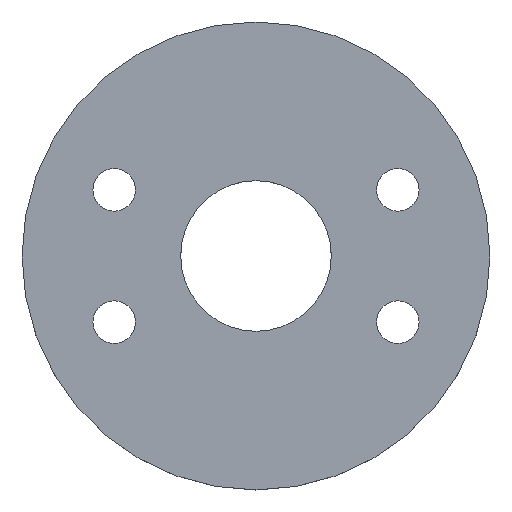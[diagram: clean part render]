
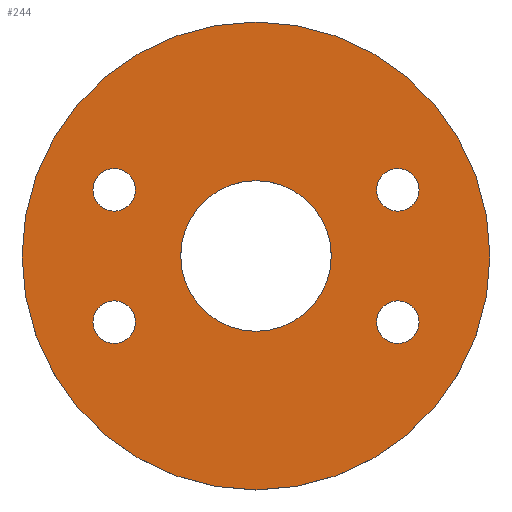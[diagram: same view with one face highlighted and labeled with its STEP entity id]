
A CAD part, top view. The second image highlights one B-rep face of the part: STEP entity #244.
In plain terms, the highlighted planar face has unit normal (0, 0, 1).
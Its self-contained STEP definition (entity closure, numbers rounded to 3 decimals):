
#1 = CARTESIAN_POINT ( 'NONE',  ( -433.071, 175.598, 42.5 ) ) ;
#3 = EDGE_CURVE ( 'NONE', #208, #363, #513, .T. ) ;
#7 = CIRCLE ( 'NONE', #331, 56.5 ) ;
#8 = VERTEX_POINT ( 'NONE', #348 ) ;
#9 = PLANE ( 'NONE',  #464 ) ;
#10 = DIRECTION ( 'NONE',  ( 0., 0., 1. ) ) ;
#13 = DIRECTION ( 'NONE',  ( 0., 0., 1. ) ) ;
#15 = EDGE_LOOP ( 'NONE', ( #98, #112 ) ) ;
#19 = VERTEX_POINT ( 'NONE', #72 ) ;
#22 = CARTESIAN_POINT ( 'NONE',  ( 376.571, 175.598, 42.5 ) ) ;
#24 = DIRECTION ( 'NONE',  ( -1., 0., 0. ) ) ;
#27 = CARTESIAN_POINT ( 'NONE',  ( -320.071, -175.598, 42.5 ) ) ;
#28 = VERTEX_POINT ( 'NONE', #126 ) ;
#32 = CARTESIAN_POINT ( 'NONE',  ( 320.071, 175.598, 42.5 ) ) ;
#37 = EDGE_CURVE ( 'NONE', #506, #71, #211, .T. ) ;
#40 = CARTESIAN_POINT ( 'NONE',  ( -621.5, 0., 42.5 ) ) ;
#48 = CARTESIAN_POINT ( 'NONE',  ( 376.571, -175.598, 42.5 ) ) ;
#50 = DIRECTION ( 'NONE',  ( 0., 0., 1. ) ) ;
#52 = ORIENTED_EDGE ( 'NONE', *, *, #374, .T. ) ;
#57 = DIRECTION ( 'NONE',  ( 0., 0., 1. ) ) ;
#60 = DIRECTION ( 'NONE',  ( 1., 0., 0. ) ) ;
#64 = EDGE_LOOP ( 'NONE', ( #415, #352 ) ) ;
#67 = DIRECTION ( 'NONE',  ( 1., 0., 0. ) ) ;
#69 = AXIS2_PLACEMENT_3D ( 'NONE', #170, #57, #317 ) ;
#71 = VERTEX_POINT ( 'NONE', #182 ) ;
#72 = CARTESIAN_POINT ( 'NONE',  ( -433.071, -175.598, 42.5 ) ) ;
#73 = VERTEX_POINT ( 'NONE', #27 ) ;
#81 = VERTEX_POINT ( 'NONE', #490 ) ;
#98 = ORIENTED_EDGE ( 'NONE', *, *, #289, .F. ) ;
#99 = DIRECTION ( 'NONE',  ( 0., 0., 1. ) ) ;
#101 = DIRECTION ( 'NONE',  ( -1., 0., 0. ) ) ;
#112 = ORIENTED_EDGE ( 'NONE', *, *, #396, .F. ) ;
#120 = CARTESIAN_POINT ( 'NONE',  ( 433.071, 175.598, 42.5 ) ) ;
#123 = ORIENTED_EDGE ( 'NONE', *, *, #3, .F. ) ;
#126 = CARTESIAN_POINT ( 'NONE',  ( -200., 0., 42.5 ) ) ;
#127 = AXIS2_PLACEMENT_3D ( 'NONE', #160, #435, #483 ) ;
#140 = AXIS2_PLACEMENT_3D ( 'NONE', #314, #10, #24 ) ;
#141 = DIRECTION ( 'NONE',  ( 0., 0., 1. ) ) ;
#142 = ORIENTED_EDGE ( 'NONE', *, *, #342, .F. ) ;
#158 = AXIS2_PLACEMENT_3D ( 'NONE', #233, #190, #521 ) ;
#160 = CARTESIAN_POINT ( 'NONE',  ( 0., 0., 42.5 ) ) ;
#162 = DIRECTION ( 'NONE',  ( 1., 0., 0. ) ) ;
#170 = CARTESIAN_POINT ( 'NONE',  ( -376.571, 175.598, 42.5 ) ) ;
#179 = EDGE_CURVE ( 'NONE', #536, #359, #386, .T. ) ;
#182 = CARTESIAN_POINT ( 'NONE',  ( 320.071, -175.598, 42.5 ) ) ;
#183 = CARTESIAN_POINT ( 'NONE',  ( -376.571, 175.598, 42.5 ) ) ;
#190 = DIRECTION ( 'NONE',  ( 0., 0., 1. ) ) ;
#196 = AXIS2_PLACEMENT_3D ( 'NONE', #463, #141, #250 ) ;
#197 = EDGE_LOOP ( 'NONE', ( #52, #518 ) ) ;
#199 = FACE_OUTER_BOUND ( 'NONE', #197, .T. ) ;
#200 = CARTESIAN_POINT ( 'NONE',  ( 0., 0., 42.5 ) ) ;
#208 = VERTEX_POINT ( 'NONE', #325 ) ;
#209 = EDGE_CURVE ( 'NONE', #71, #506, #7, .T. ) ;
#211 = CIRCLE ( 'NONE', #140, 56.5 ) ;
#218 = CARTESIAN_POINT ( 'NONE',  ( -376.571, -175.598, 42.5 ) ) ;
#224 = ORIENTED_EDGE ( 'NONE', *, *, #179, .F. ) ;
#227 = CARTESIAN_POINT ( 'NONE',  ( 433.071, -175.598, 42.5 ) ) ;
#233 = CARTESIAN_POINT ( 'NONE',  ( 0., 0., 42.5 ) ) ;
#244 = ADVANCED_FACE ( 'NONE', ( #453, #545, #519, #531, #199, #320 ), #9, .T. ) ;
#249 = CIRCLE ( 'NONE', #362, 621.5 ) ;
#250 = DIRECTION ( 'NONE',  ( 1., 0., 0. ) ) ;
#257 = EDGE_CURVE ( 'NONE', #8, #426, #249, .T. ) ;
#258 = EDGE_LOOP ( 'NONE', ( #487, #327 ) ) ;
#259 = CIRCLE ( 'NONE', #484, 56.5 ) ;
#261 = CARTESIAN_POINT ( 'NONE',  ( 0., 0., 42.5 ) ) ;
#267 = CARTESIAN_POINT ( 'NONE',  ( -376.571, -175.598, 42.5 ) ) ;
#270 = CIRCLE ( 'NONE', #127, 200. ) ;
#284 = DIRECTION ( 'NONE',  ( -1., 0., 0. ) ) ;
#285 = CIRCLE ( 'NONE', #158, 621.5 ) ;
#289 = EDGE_CURVE ( 'NONE', #28, #81, #365, .T. ) ;
#293 = DIRECTION ( 'NONE',  ( 1., 0., 0. ) ) ;
#296 = DIRECTION ( 'NONE',  ( 0., 0., 1. ) ) ;
#300 = DIRECTION ( 'NONE',  ( 0., 0., 1. ) ) ;
#314 = CARTESIAN_POINT ( 'NONE',  ( 376.571, -175.598, 42.5 ) ) ;
#317 = DIRECTION ( 'NONE',  ( -1., 0., 0. ) ) ;
#320 = FACE_BOUND ( 'NONE', #15, .T. ) ;
#325 = CARTESIAN_POINT ( 'NONE',  ( -320.071, 175.598, 42.5 ) ) ;
#327 = ORIENTED_EDGE ( 'NONE', *, *, #456, .F. ) ;
#328 = DIRECTION ( 'NONE',  ( 0., 0., 1. ) ) ;
#330 = DIRECTION ( 'NONE',  ( 1., 0., 0. ) ) ;
#331 = AXIS2_PLACEMENT_3D ( 'NONE', #48, #328, #101 ) ;
#342 = EDGE_CURVE ( 'NONE', #359, #536, #379, .T. ) ;
#348 = CARTESIAN_POINT ( 'NONE',  ( 621.5, 0., 42.5 ) ) ;
#352 = ORIENTED_EDGE ( 'NONE', *, *, #209, .F. ) ;
#359 = VERTEX_POINT ( 'NONE', #32 ) ;
#362 = AXIS2_PLACEMENT_3D ( 'NONE', #261, #13, #293 ) ;
#363 = VERTEX_POINT ( 'NONE', #1 ) ;
#365 = CIRCLE ( 'NONE', #538, 200. ) ;
#374 = EDGE_CURVE ( 'NONE', #426, #8, #285, .T. ) ;
#375 = ORIENTED_EDGE ( 'NONE', *, *, #486, .F. ) ;
#379 = CIRCLE ( 'NONE', #517, 56.5 ) ;
#381 = AXIS2_PLACEMENT_3D ( 'NONE', #267, #296, #60 ) ;
#386 = CIRCLE ( 'NONE', #196, 56.5 ) ;
#396 = EDGE_CURVE ( 'NONE', #81, #28, #270, .T. ) ;
#415 = ORIENTED_EDGE ( 'NONE', *, *, #37, .F. ) ;
#426 = VERTEX_POINT ( 'NONE', #40 ) ;
#435 = DIRECTION ( 'NONE',  ( 0., 0., 1. ) ) ;
#447 = DIRECTION ( 'NONE',  ( 0., 0., 1. ) ) ;
#449 = AXIS2_PLACEMENT_3D ( 'NONE', #183, #503, #284 ) ;
#452 = EDGE_LOOP ( 'NONE', ( #123, #375 ) ) ;
#453 = FACE_BOUND ( 'NONE', #452, .T. ) ;
#456 = EDGE_CURVE ( 'NONE', #19, #73, #461, .T. ) ;
#461 = CIRCLE ( 'NONE', #381, 56.5 ) ;
#463 = CARTESIAN_POINT ( 'NONE',  ( 376.571, 175.598, 42.5 ) ) ;
#464 = AXIS2_PLACEMENT_3D ( 'NONE', #477, #50, #330 ) ;
#467 = EDGE_LOOP ( 'NONE', ( #224, #142 ) ) ;
#477 = CARTESIAN_POINT ( 'NONE',  ( 0., 0., 42.5 ) ) ;
#483 = DIRECTION ( 'NONE',  ( 1., 0., 0. ) ) ;
#484 = AXIS2_PLACEMENT_3D ( 'NONE', #218, #447, #496 ) ;
#486 = EDGE_CURVE ( 'NONE', #363, #208, #489, .T. ) ;
#487 = ORIENTED_EDGE ( 'NONE', *, *, #495, .F. ) ;
#489 = CIRCLE ( 'NONE', #449, 56.5 ) ;
#490 = CARTESIAN_POINT ( 'NONE',  ( 200., 0., 42.5 ) ) ;
#495 = EDGE_CURVE ( 'NONE', #73, #19, #259, .T. ) ;
#496 = DIRECTION ( 'NONE',  ( 1., 0., 0. ) ) ;
#503 = DIRECTION ( 'NONE',  ( 0., 0., 1. ) ) ;
#506 = VERTEX_POINT ( 'NONE', #227 ) ;
#513 = CIRCLE ( 'NONE', #69, 56.5 ) ;
#517 = AXIS2_PLACEMENT_3D ( 'NONE', #22, #300, #67 ) ;
#518 = ORIENTED_EDGE ( 'NONE', *, *, #257, .T. ) ;
#519 = FACE_BOUND ( 'NONE', #64, .T. ) ;
#521 = DIRECTION ( 'NONE',  ( 1., 0., 0. ) ) ;
#531 = FACE_BOUND ( 'NONE', #467, .T. ) ;
#536 = VERTEX_POINT ( 'NONE', #120 ) ;
#538 = AXIS2_PLACEMENT_3D ( 'NONE', #200, #99, #162 ) ;
#545 = FACE_BOUND ( 'NONE', #258, .T. ) ;
